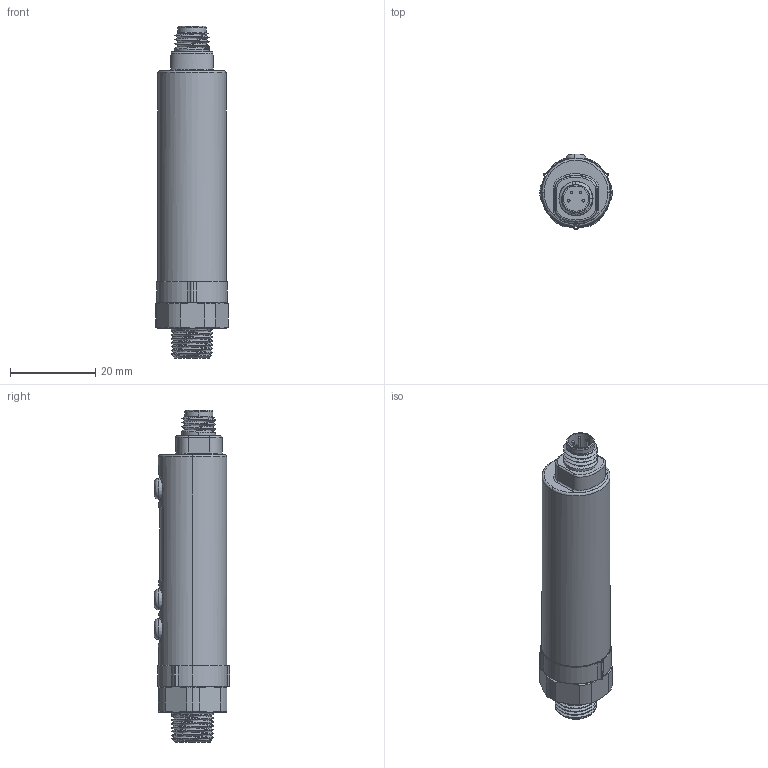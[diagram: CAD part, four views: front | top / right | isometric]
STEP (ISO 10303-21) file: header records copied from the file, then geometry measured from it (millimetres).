
FILE_DESCRIPTION (( 'STEP AP203' ), '1' );
FILE_NAME ('VA03411.STEP', '2016-11-29T10:07:38', ( '' ), ( '' ), 'SwSTEP 2.0', 'SolidWorks 2016', '' );
FILE_SCHEMA (( 'CONFIG_CONTROL_DESIGN' ));
Length unit declared in the file: millimetre
Products named in the file (1): VA03411
Bounding box: 17 x 17.74 x 78 mm (x, y, z)
Volume: 13171.4 mm3; surface area: 4544.7 mm2
Topology: 1 solids, 1 shells, 261 faces, 647 edges, 398 vertices
Faces by surface type: bspline 97, cylinder 88, cone 38, plane 38
Entity records: 17083 total; most frequent: CARTESIAN_POINT 11581, ORIENTED_EDGE 1278, DIRECTION 977, EDGE_CURVE 639, AXIS2_PLACEMENT_3D 419, VERTEX_POINT 398, EDGE_LOOP 285, ADVANCED_FACE 261
